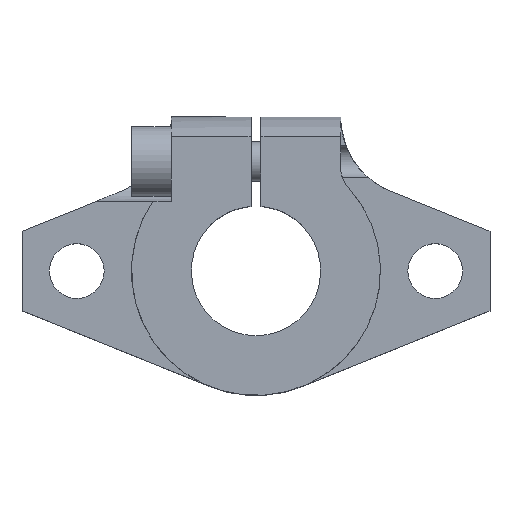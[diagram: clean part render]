
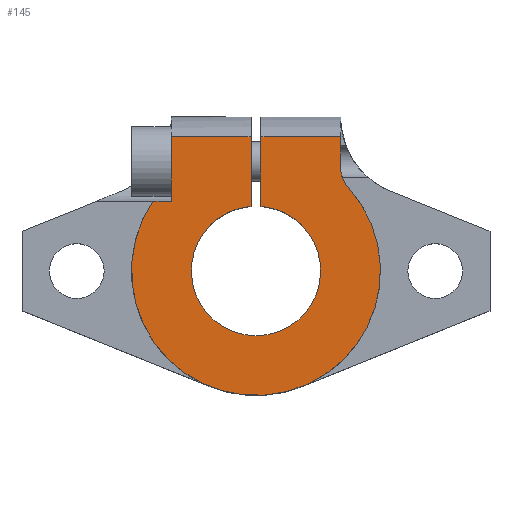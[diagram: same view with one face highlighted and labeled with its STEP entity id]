
A CAD part, top view. The second image highlights one B-rep face of the part: STEP entity #145.
In plain terms, the highlighted planar face has unit normal (0, 0, 1).
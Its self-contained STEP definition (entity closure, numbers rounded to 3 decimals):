
#145=ADVANCED_FACE('',(#221),#222,.T.);
#221=FACE_OUTER_BOUND('',#324,.T.);
#222=PLANE('',#325);
#324=EDGE_LOOP('',(#558,#559,#560,#561,#562,#563,#564,#565,#566,#567));
#325=AXIS2_PLACEMENT_3D('',#568,#569,#570);
#558=ORIENTED_EDGE('',*,*,#732,.F.);
#559=ORIENTED_EDGE('',*,*,#736,.F.);
#560=ORIENTED_EDGE('',*,*,#715,.T.);
#561=ORIENTED_EDGE('',*,*,#750,.F.);
#562=ORIENTED_EDGE('',*,*,#754,.F.);
#563=ORIENTED_EDGE('',*,*,#758,.F.);
#564=ORIENTED_EDGE('',*,*,#762,.F.);
#565=ORIENTED_EDGE('',*,*,#773,.F.);
#566=ORIENTED_EDGE('',*,*,#781,.T.);
#567=ORIENTED_EDGE('',*,*,#782,.F.);
#568=CARTESIAN_POINT('',(12.5,29.0,6.0));
#569=DIRECTION('',(-0.0,0.,1.0));
#570=DIRECTION('',(1.0,0.0,0.0));
#715=EDGE_CURVE('',#827,#825,#828,.T.);
#732=EDGE_CURVE('',#859,#860,#861,.T.);
#736=EDGE_CURVE('',#827,#859,#867,.T.);
#750=EDGE_CURVE('',#891,#825,#892,.T.);
#754=EDGE_CURVE('',#895,#891,#897,.T.);
#758=EDGE_CURVE('',#902,#895,#904,.F.);
#762=EDGE_CURVE('',#908,#902,#910,.T.);
#773=EDGE_CURVE('',#924,#908,#926,.T.);
#781=EDGE_CURVE('',#924,#936,#937,.T.);
#782=EDGE_CURVE('',#860,#936,#938,.T.);
#825=VERTEX_POINT('',#1015);
#827=VERTEX_POINT('',#1017);
#828=LINE('',#1018,#1019);
#859=VERTEX_POINT('',#1098);
#860=VERTEX_POINT('',#1099);
#861=CIRCLE('',#1100,6.5);
#867=LINE('',#1108,#1109);
#891=VERTEX_POINT('',#1142);
#892=LINE('',#1143,#1144);
#895=VERTEX_POINT('',#1149);
#897=LINE('',#1152,#1153);
#902=VERTEX_POINT('',#1159);
#904=CIRCLE('',#1162,12.5);
#908=VERTEX_POINT('',#1167);
#910=CIRCLE('',#1170,3.0);
#924=VERTEX_POINT('',#1192);
#926=LINE('',#1194,#1195);
#936=VERTEX_POINT('',#1209);
#937=LINE('',#1210,#1211);
#938=LINE('',#1212,#1213);
#1015=CARTESIAN_POINT('',(-8.5,13.5,6.0));
#1017=CARTESIAN_POINT('',(-0.5,13.5,6.0));
#1018=CARTESIAN_POINT('',(46.238,13.5,6.0));
#1019=VECTOR('',#1321,1.0);
#1098=CARTESIAN_POINT('',(-0.5,6.481,6.0));
#1099=CARTESIAN_POINT('',(0.5,6.481,6.0));
#1100=AXIS2_PLACEMENT_3D('',#1351,#1352,#1353);
#1108=CARTESIAN_POINT('',(-0.5,15.5,6.0));
#1109=VECTOR('',#1359,1.0);
#1142=CARTESIAN_POINT('',(-8.5,7.,6.0));
#1143=CARTESIAN_POINT('',(-8.5,7.,6.0));
#1144=VECTOR('',#1381,1.0);
#1149=CARTESIAN_POINT('',(-10.356,7.,6.0));
#1152=CARTESIAN_POINT('',(-10.356,7.,6.0));
#1153=VECTOR('',#1385,1.0);
#1159=CARTESIAN_POINT('',(9.274,8.381,6.0));
#1162=AXIS2_PLACEMENT_3D('',#1391,#1392,#1393);
#1167=CARTESIAN_POINT('',(8.5,10.392,6.0));
#1170=AXIS2_PLACEMENT_3D('',#1399,#1400,#1401);
#1192=CARTESIAN_POINT('',(8.5,13.5,6.0));
#1194=CARTESIAN_POINT('',(8.5,15.5,6.0));
#1195=VECTOR('',#1416,1.0);
#1209=CARTESIAN_POINT('',(0.5,13.5,6.0));
#1210=CARTESIAN_POINT('',(46.238,13.5,6.0));
#1211=VECTOR('',#1430,1.0);
#1212=CARTESIAN_POINT('',(0.5,5.979,6.0));
#1213=VECTOR('',#1431,1.0);
#1321=DIRECTION('',(-1.0,0.0,0.0));
#1351=CARTESIAN_POINT('',(0.,0.,6.0));
#1352=DIRECTION('',(-0.0,0.,1.0));
#1353=DIRECTION('',(1.0,0.0,0.0));
#1359=DIRECTION('',(0.,-1.0,0.));
#1381=DIRECTION('',(0.0,1.0,0.));
#1385=DIRECTION('',(1.0,0.,0.));
#1391=CARTESIAN_POINT('',(0.,0.,6.0));
#1392=DIRECTION('',(0.0,0.,1.0));
#1393=DIRECTION('',(0.0,-1.0,0.));
#1399=CARTESIAN_POINT('',(11.5,10.392,6.0));
#1400=DIRECTION('',(0.0,0.,1.0));
#1401=DIRECTION('',(0.0,-1.0,0.));
#1416=DIRECTION('',(0.,-1.0,0.));
#1430=DIRECTION('',(-1.0,0.0,0.0));
#1431=DIRECTION('',(0.,1.0,0.));
